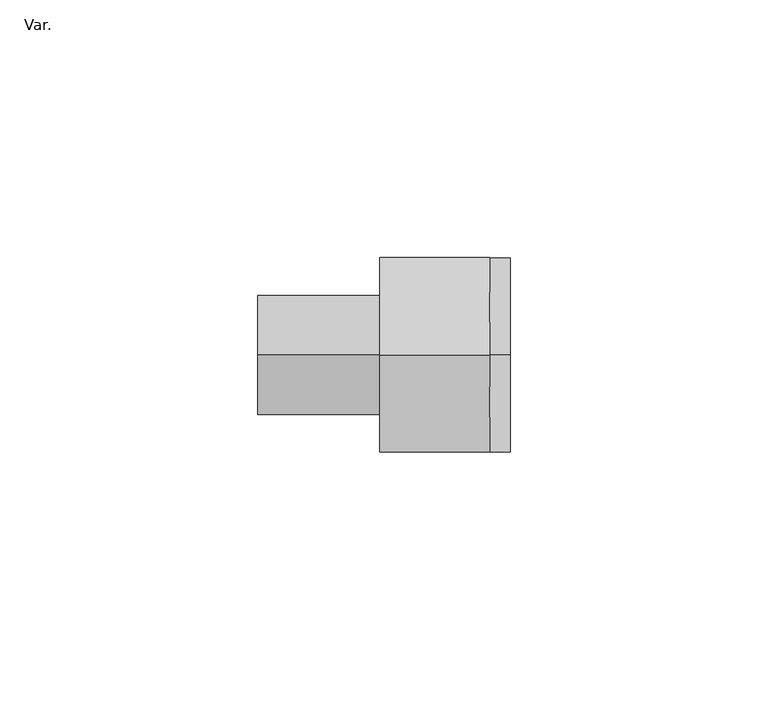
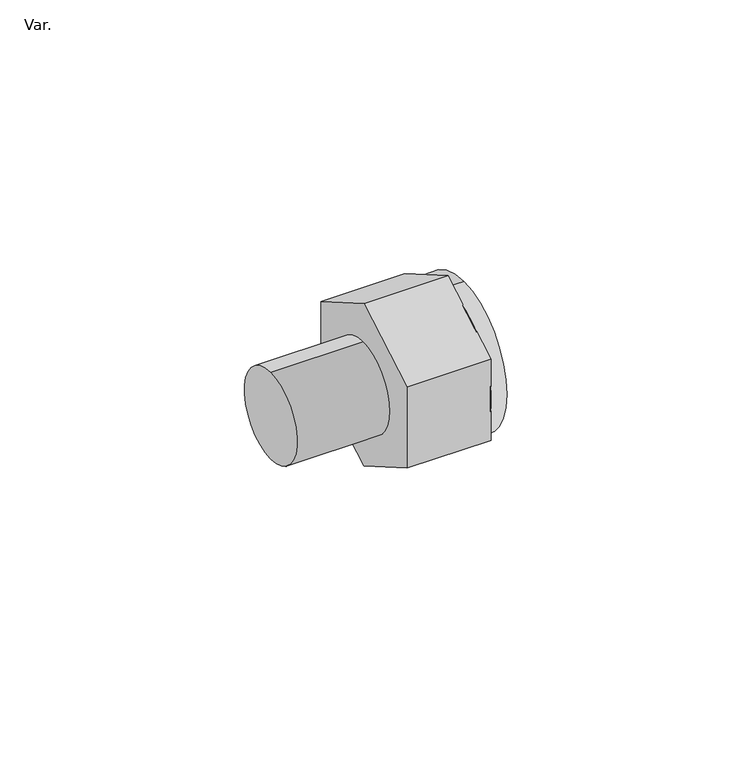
"""IFC4 building model written with IfcOpenShell, lengths in millimetres: pipe fitting geometry, AmancoWavin_ConexõesdeTubos_K5ZNãoUsarConectorFêmeaMódulodeDistribuição(nested) : Var.."""

from ifc_helpers import new_model, si_unit, point, frame, frame_2d, origin, origin_2d, place, context, project, spatial, polyline, circle_curve, trimmed, segment, composite_curve, outline, extrude, source, transform, mapped, element, save
from ifc_brep_helpers import plane_surface, revolved_surface, advanced_brep


def var_f6f279d3(model_context):
    return source(origin(), model_context, "Body", "SolidModel", [
        extrude(outline(composite_curve([segment(trimmed(circle_curve(frame_2d((0.0121199, -0.0052645)), 18.85), [point((0.0121199, 18.8447355))], [point((0.0121199, -18.8552645))], False, "CARTESIAN"), True, "CONTINUOUS"), segment(trimmed(circle_curve(frame_2d((0.0121199, -0.0052645)), 18.85), [point((0.0121199, -18.8552645))], [point((0.0121199, 18.8447355))], False, "CARTESIAN"), True, "CONTINUOUS")], self_intersect=False), holes=[composite_curve([segment(trimmed(circle_curve(frame_2d((-0.0019376, 0.0)), 13.25), [point((-0.0019376, 13.25))], [point((-0.0019376, -13.25))], True, "CARTESIAN"), True, "CONTINUOUS"), segment(trimmed(circle_curve(frame_2d((-0.0019376, 0.0)), 13.25), [point((-0.0019376, -13.25))], [point((-0.0019376, 13.25))], True, "CARTESIAN"), True, "CONTINUOUS")], self_intersect=False)]), frame((44.975, 0.0, 0.0), z_axis=(1.0, 0.0, 0.0), x_axis=(0.0, 1.0, 0.0)), (0.0, 0.0, 1.0), 4.0),
        advanced_brep(
        [(44.975, 18.88, -10.9), (44.975, 18.88, 10.9), (44.975, 0.0004847, 21.7997202), (44.975, -18.8793538, 10.899957), (44.975, -18.8792047, -10.900043), (44.975, 0.0004101, -21.799591), (44.975, -0.0019376, -13.25), (44.975, -0.0019376, 13.25), (23.675, 18.88, -10.9), (23.675, 0.0004101, -21.799591), (23.675, -18.8792047, -10.900043), (23.675, -18.8793538, 10.899957), (23.675, 0.0004847, 21.7997202), (23.675, 18.88, 10.9), (27.675, -0.0019376, -13.25), (27.675, -0.0019376, 13.25)],
        [
            (0, 1),
            (1, 2),
            (2, 3),
            (3, 4),
            (4, 5),
            (5, 0),
            (6, 7, circle_curve(frame((44.975, -0.0019376, 0.0), z_axis=(-1.0, 0.0, 0.0), x_axis=(0.0, 0.0, 1.0)), 13.25)),
            (7, 6, circle_curve(frame((44.975, -0.0019376, 0.0), z_axis=(-1.0, 0.0, 0.0), x_axis=(0.0, 0.0, 1.0)), 13.25)),
            (8, 9),
            (9, 10),
            (10, 11),
            (11, 12),
            (12, 13),
            (13, 8),
            (0, 8),
            (13, 1),
            (12, 2),
            (11, 3),
            (10, 4),
            (9, 5),
            (14, 15, circle_curve(frame((27.675, -0.0019376, 0.0), z_axis=(1.0, 0.0, 0.0), x_axis=(0.0, 0.0, 1.0)), 13.25)),
            (15, 14, circle_curve(frame((27.675, -0.0019376, 0.0), z_axis=(1.0, 0.0, 0.0), x_axis=(0.0, 0.0, 1.0)), 13.25)),
            (15, 7),
            (6, 14),
        ],
        [
            plane_surface(frame((44.975, 18.88, 10.9), z_axis=(1.0, 0.0, 0.0), x_axis=(0.0, 0.0, 1.0))),
            plane_surface(frame((23.675, 18.88, 10.9), z_axis=(-1.0, 0.0, 0.0), x_axis=(0.0, 0.0, -1.0))),
            plane_surface(frame((44.975, 18.88, -10.9), z_axis=(0.0, 1.0, 0.0), x_axis=(-1.0, 0.0, 0.0))),
            plane_surface(frame((44.975, 18.88, 10.9), z_axis=(0.0, 0.4999871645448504, 0.8660328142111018), x_axis=(-1.0, 0.0, 0.0))),
            plane_surface(frame((44.975, 0.0004847, 21.7997202), z_axis=(0.0, -0.49998222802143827, 0.866035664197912), x_axis=(-1.0, 0.0, 0.0))),
            plane_surface(frame((44.975, -18.8793538, 10.899957), z_axis=(0.0, -0.9999999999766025, -6.840700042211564e-06), x_axis=(-1.0, 0.0, 0.0))),
            plane_surface(frame((44.975, -18.8792047, -10.900043), z_axis=(0.0, -0.4999792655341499, -0.8660373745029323), x_axis=(-1.0, 0.0, 0.0))),
            plane_surface(frame((44.975, 0.0004101, -21.799591), z_axis=(0.0, 0.49998124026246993, -0.8660362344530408), x_axis=(-1.0, 0.0, 0.0))),
            plane_surface(frame((27.675, -0.0019376, 13.25), z_axis=(1.0, 0.0, 0.0), x_axis=(0.0, 1.0, 0.0))),
            revolved_surface(polyline([(27.675, -0.0019376, 13.25), (44.975, -0.0019376, 13.25)]), (48.975, -0.0019376, 0.0), (-1.0, 0.0, 0.0)),
        ],
        [
            (0, [[1, 2, 3, 4, 5, 6], [7, 8]]),
            (1, [[9, 10, 11, 12, 13, 14]]),
            (2, [[-1, 15, -14, 16]]),
            (3, [[-2, -16, -13, 17]]),
            (4, [[-3, -17, -12, 18]]),
            (5, [[-4, -18, -11, 19]]),
            (6, [[-5, -19, -10, 20]]),
            (7, [[-6, -20, -9, -15]]),
            (8, [[21, 22]]),
            (9, [[-22, 23, -7, 24]]),
            (9, [[-21, -24, -8, -23]]),
        ],
    ),
        extrude(outline(composite_curve([segment(trimmed(circle_curve(origin_2d(), 11.6), [point((0.0, -11.6))], [point((0.0, 11.6))], False, "CARTESIAN"), True, "CONTINUOUS"), segment(trimmed(circle_curve(origin_2d(), 11.6), [point((0.0, 11.6))], [point((0.0, -11.6))], False, "CARTESIAN"), True, "CONTINUOUS")], self_intersect=False)), frame((0.0, 0.0, 0.0), z_axis=(1.0, 0.0, 0.0), x_axis=(0.0, 1.0, 0.0)), (0.0, 0.0, 1.0), 23.675),
    ])


if __name__ == "__main__":
    model = new_model("IFC4")
    model_context = context("Model", 3, world=origin())
    ifc_project = project(units=[si_unit("LENGTHUNIT", "METRE", prefix="MILLI")], contexts=[model_context])
    site = spatial("IfcSite", under=ifc_project)
    building = spatial("IfcBuilding", under=site)
    placement = place(None, origin())
    var_shape = var_f6f279d3(model_context)
    element("IfcPipeFitting", 1, ObjectType="AmancoWavin_ConexõesdeTubos_K5ZNãoUsarConectorFêmeaMódulodeDistribuição(nested) : Var.", at=placement, inside=building, context=model_context, shape_type="MappedRepresentation", body=[
        mapped(var_shape, transform((0.0, 0.0, 0.0), x_axis=(1.0, 0.0, 0.0), y_axis=(0.0, 1.0, 0.0), z_axis=(0.0, 0.0, 1.0))),
    ])
    save(model, "model.ifc")
